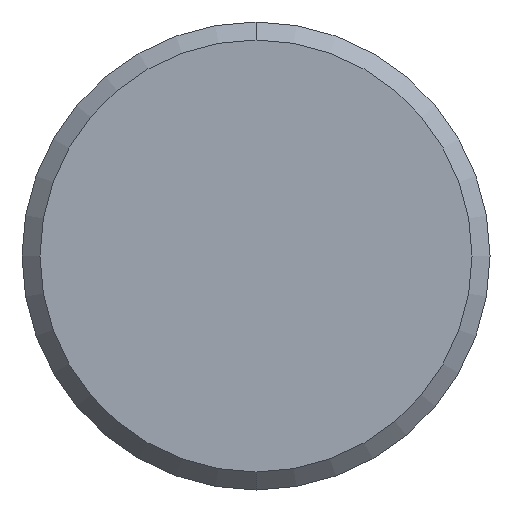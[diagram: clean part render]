
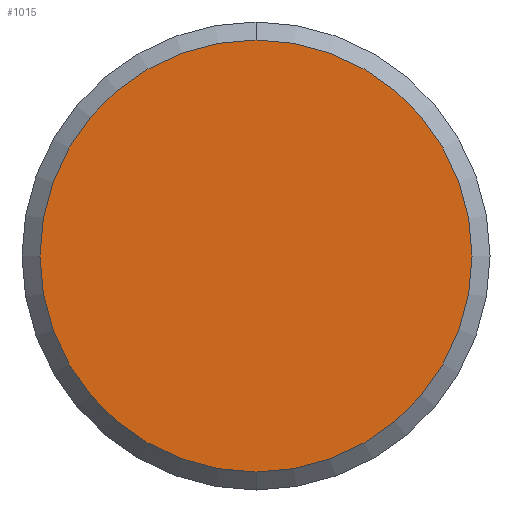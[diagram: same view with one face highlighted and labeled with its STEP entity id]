
A CAD part, front view. The second image highlights one B-rep face of the part: STEP entity #1015.
In plain terms, the highlighted planar face has unit normal (0, -1, 0).
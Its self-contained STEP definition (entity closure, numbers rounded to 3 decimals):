
#3 = AXIS2_PLACEMENT_3D ( 'NONE', #388, #469, #1067 ) ;
#32 = CARTESIAN_POINT ( 'NONE',  ( 0., 0., 0. ) ) ;
#62 = DIRECTION ( 'NONE',  ( 0., 1., 0. ) ) ;
#85 = AXIS2_PLACEMENT_3D ( 'NONE', #32, #281, #872 ) ;
#86 = ORIENTED_EDGE ( 'NONE', *, *, #657, .F. ) ;
#139 = VERTEX_POINT ( 'NONE', #416 ) ;
#281 = DIRECTION ( 'NONE',  ( 0., 1., 0. ) ) ;
#347 = EDGE_CURVE ( 'NONE', #139, #403, #637, .T. ) ;
#386 = CIRCLE ( 'NONE', #3, 12. ) ;
#388 = CARTESIAN_POINT ( 'NONE',  ( 0., 0., 0. ) ) ;
#403 = VERTEX_POINT ( 'NONE', #516 ) ;
#416 = CARTESIAN_POINT ( 'NONE',  ( 0., 0., -12. ) ) ;
#469 = DIRECTION ( 'NONE',  ( 0., 1., 0. ) ) ;
#516 = CARTESIAN_POINT ( 'NONE',  ( 0., 0., 12. ) ) ;
#595 = EDGE_LOOP ( 'NONE', ( #781, #86 ) ) ;
#631 = DIRECTION ( 'NONE',  ( 0., 0., 1. ) ) ;
#637 = CIRCLE ( 'NONE', #85, 12. ) ;
#657 = EDGE_CURVE ( 'NONE', #403, #139, #386, .T. ) ;
#705 = PLANE ( 'NONE',  #764 ) ;
#764 = AXIS2_PLACEMENT_3D ( 'NONE', #1071, #62, #631 ) ;
#781 = ORIENTED_EDGE ( 'NONE', *, *, #347, .F. ) ;
#872 = DIRECTION ( 'NONE',  ( 0., 0., 1. ) ) ;
#1015 = ADVANCED_FACE ( 'NONE', ( #1049 ), #705, .F. ) ;
#1049 = FACE_OUTER_BOUND ( 'NONE', #595, .T. ) ;
#1067 = DIRECTION ( 'NONE',  ( 0., 0., 1. ) ) ;
#1071 = CARTESIAN_POINT ( 'NONE',  ( 0., 0., 0. ) ) ;
